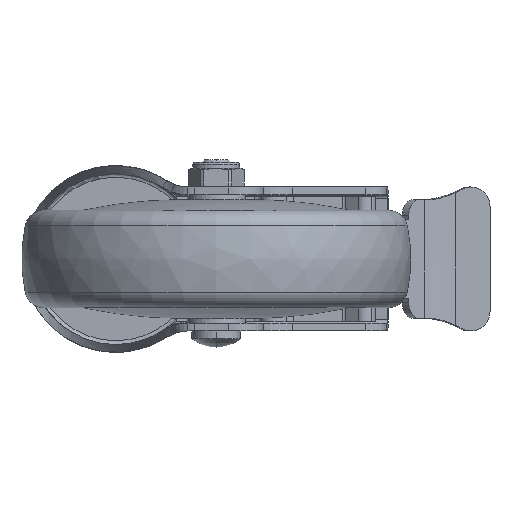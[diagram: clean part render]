
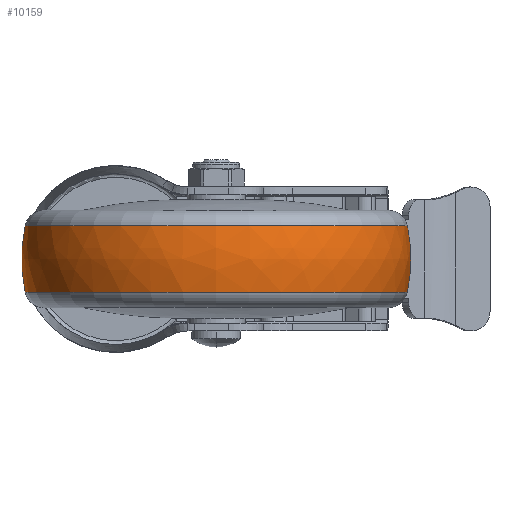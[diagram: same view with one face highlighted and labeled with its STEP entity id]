
A CAD part, front view. The second image highlights one B-rep face of the part: STEP entity #10159.
In plain terms, the highlighted free-form (B-spline) face has degree [3, 3] with [7, 4] control points.
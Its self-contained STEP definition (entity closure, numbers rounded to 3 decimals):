
#9863=CARTESIAN_POINT('',(0.,10.,0.));
#9864=DIRECTION('',(0.,0.,1.));
#9865=DIRECTION('',(0.214,0.977,0.));
#9866=AXIS2_PLACEMENT_3D('',#9863,#9864,#9865);
#9868=CARTESIAN_POINT('',(0.,-10.,0.));
#9869=DIRECTION('',(0.,0.,-1.));
#9870=DIRECTION('',(0.214,-0.977,0.));
#9871=AXIS2_PLACEMENT_3D('',#9868,#9869,#9870);
#9873=CARTESIAN_POINT('',(8.571,0.,0.));
#9874=DIRECTION('',(-1.,0.,0.));
#9875=DIRECTION('',(0.,1.,0.));
#9876=AXIS2_PLACEMENT_3D('',#9873,#9874,#9875);
#9898=CARTESIAN_POINT('',(-8.571,0.,0.));
#9899=DIRECTION('',(-1.,0.,0.));
#9900=DIRECTION('',(0.,1.,0.));
#9901=AXIS2_PLACEMENT_3D('',#9898,#9899,#9900);
#9916=CARTESIAN_POINT('',(8.571,49.071,0.));
#9918=VERTEX_POINT('',#9916);
#9919=CARTESIAN_POINT('',(-8.571,49.071,0.));
#9920=VERTEX_POINT('',#9919);
#9936=CARTESIAN_POINT('',(8.571,-49.071,
0.));
#9938=VERTEX_POINT('',#9936);
#9939=CARTESIAN_POINT('',(-8.571,-49.071,
0.));
#9940=VERTEX_POINT('',#9939);
#10121=CARTESIAN_POINT('',(-8.909,-48.899,
3.076));
#10122=CARTESIAN_POINT('',(-3.02,-50.241,
3.161));
#10123=CARTESIAN_POINT('',(3.02,-50.241,
3.161));
#10124=CARTESIAN_POINT('',(8.909,-48.899,
3.076));
#10125=CARTESIAN_POINT('',(-8.909,-50.792,
-27.016));
#10126=CARTESIAN_POINT('',(-3.02,-52.186,
-27.757));
#10127=CARTESIAN_POINT('',(3.02,-52.186,
-27.757));
#10128=CARTESIAN_POINT('',(8.909,-50.792,
-27.016));
#10129=CARTESIAN_POINT('',(-8.909,-30.152,
-48.995));
#10130=CARTESIAN_POINT('',(-3.02,-30.98,
-50.341));
#10131=CARTESIAN_POINT('',(3.02,-30.98,
-50.341));
#10132=CARTESIAN_POINT('',(8.909,-30.152,
-48.995));
#10133=CARTESIAN_POINT('',(-8.909,0.,
-48.995));
#10134=CARTESIAN_POINT('',(-3.02,0.,
-50.341));
#10135=CARTESIAN_POINT('',(3.02,0.,-50.341));
#10136=CARTESIAN_POINT('',(8.909,0.,
-48.995));
#10137=CARTESIAN_POINT('',(-8.909,30.152,
-48.995));
#10138=CARTESIAN_POINT('',(-3.02,30.98,
-50.341));
#10139=CARTESIAN_POINT('',(3.02,30.98,
-50.341));
#10140=CARTESIAN_POINT('',(8.909,30.152,
-48.995));
#10141=CARTESIAN_POINT('',(-8.909,50.792,
-27.016));
#10142=CARTESIAN_POINT('',(-3.02,52.186,
-27.757));
#10143=CARTESIAN_POINT('',(3.02,52.186,
-27.757));
#10144=CARTESIAN_POINT('',(8.909,50.792,
-27.016));
#10145=CARTESIAN_POINT('',(-8.909,48.899,
3.076));
#10146=CARTESIAN_POINT('',(-3.02,50.241,
3.161));
#10147=CARTESIAN_POINT('',(3.02,50.241,3.161));
#10148=CARTESIAN_POINT('',(8.909,48.899,3.076));
#10149=(BOUNDED_SURFACE()B_SPLINE_SURFACE(3,3,((#10121,#10122,#10123,#10124),(
#10125,#10126,#10127,#10128),(#10129,#10130,#10131,#10132),(#10133,#10134,
#10135,#10136),(#10137,#10138,#10139,#10140),(#10141,#10142,#10143,#10144),(
#10145,#10146,#10147,#10148)),.UNSPECIFIED.,.F.,.F.,.F.)B_SPLINE_SURFACE_WITH_KNOTS((4,3,4),(4,4),(0.,1.,2.),(0.,1.),.UNSPECIFIED.)GEOMETRIC_REPRESENTATION_ITEM()RATIONAL_B_SPLINE_SURFACE(((1.202,1.182,
1.182,1.202),(0.95,0.934,
0.934,0.95),(0.95,0.934,
0.934,0.95),(1.202,1.182,
1.182,1.202),(0.95,0.934,
0.934,0.95),(0.95,0.934,
0.934,0.95),(1.202,1.182,
1.182,1.202)))REPRESENTATION_ITEM('')SURFACE());
#10151=ORIENTED_EDGE('',*,*,#10150,.T.);
#10153=ORIENTED_EDGE('',*,*,#10152,.T.);
#10155=ORIENTED_EDGE('',*,*,#10154,.F.);
#10156=ORIENTED_EDGE('',*,*,#10114,.F.);
#10157=EDGE_LOOP('',(#10151,#10153,#10155,#10156));
#10158=FACE_OUTER_BOUND('',#10157,.F.);
#9867=CIRCLE('',#9866,40.);
#9872=CIRCLE('',#9871,40.);
#9877=CIRCLE('',#9876,49.071);
#9902=CIRCLE('',#9901,49.071);
#10114=EDGE_CURVE('',#9918,#9938,#9877,.T.);
#10150=EDGE_CURVE('',#9918,#9920,#9867,.T.);
#10152=EDGE_CURVE('',#9920,#9940,#9902,.T.);
#10154=EDGE_CURVE('',#9938,#9940,#9872,.T.);
#10159=ADVANCED_FACE('',(#10158),#10149,.T.);
